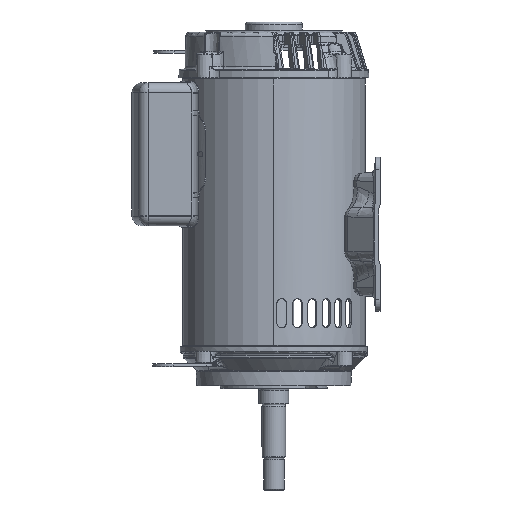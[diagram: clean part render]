
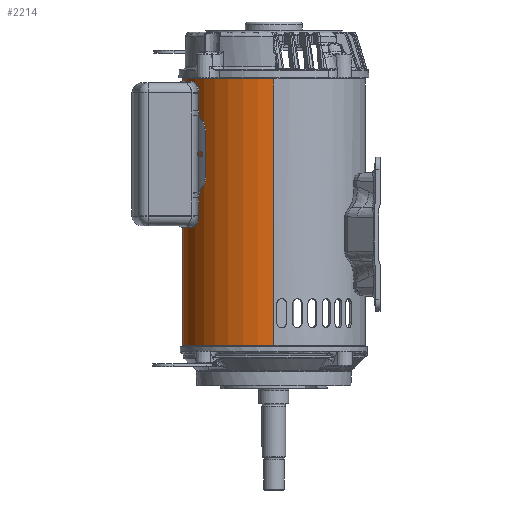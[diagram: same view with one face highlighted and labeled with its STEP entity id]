
A CAD part, left-side view. The second image highlights one B-rep face of the part: STEP entity #2214.
In plain terms, the highlighted cylindrical face has radius 97.841 mm (diameter 195.682 mm), a partial arc.
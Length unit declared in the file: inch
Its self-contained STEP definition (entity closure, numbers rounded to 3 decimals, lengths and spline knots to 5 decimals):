
#579=DIRECTION('',(0.,0.,1.));
#580=VECTOR('',#579,8.82102);
#581=CARTESIAN_POINT('',(-3.852,0.,-3.2125));
#582=LINE('',#581,#580);
#603=DIRECTION('',(0.,0.,1.));
#604=VECTOR('',#603,0.89602);
#605=CARTESIAN_POINT('',(-3.852,0.,-5.60852));
#606=LINE('',#605,#604);
#1102=CARTESIAN_POINT('',(-3.7822,0.73,-3.3415));
#1103=CARTESIAN_POINT('',(-3.77966,0.74312,-3.3415));
#1104=CARTESIAN_POINT('',(-3.77478,0.76769,
-3.33707));
#1105=CARTESIAN_POINT('',(-3.76771,0.8016,
-3.31773));
#1106=CARTESIAN_POINT('',(-3.76232,0.82643,
-3.28789));
#1107=CARTESIAN_POINT('',(-3.75942,0.83947,
-3.25201));
#1108=CARTESIAN_POINT('',(-3.75939,0.8396,
-3.21357));
#1109=CARTESIAN_POINT('',(-3.76228,0.8266,
-3.17746));
#1110=CARTESIAN_POINT('',(-3.76758,0.80221,
-3.14779));
#1111=CARTESIAN_POINT('',(-3.77473,0.76795,
-3.12796));
#1112=CARTESIAN_POINT('',(-3.77964,0.74323,-3.1235));
#1113=CARTESIAN_POINT('',(-3.7822,0.73,-3.1235));
#1115=CARTESIAN_POINT('',(-3.7822,0.73,-3.1235));
#1116=CARTESIAN_POINT('',(-3.78472,0.71691,-3.1235));
#1117=CARTESIAN_POINT('',(-3.78932,0.69237,
-3.12792));
#1118=CARTESIAN_POINT('',(-3.79533,0.65856,
-3.14715));
#1119=CARTESIAN_POINT('',(-3.79954,0.63366,
-3.17694));
#1120=CARTESIAN_POINT('',(-3.80169,0.62053,
-3.21291));
#1121=CARTESIAN_POINT('',(-3.80171,0.6204,
-3.25152));
#1122=CARTESIAN_POINT('',(-3.79956,0.6335,
-3.28774));
#1123=CARTESIAN_POINT('',(-3.79543,0.65796,
-3.31735));
#1124=CARTESIAN_POINT('',(-3.78936,0.69215,
-3.33707));
#1125=CARTESIAN_POINT('',(-3.78474,0.71682,-3.3415));
#1126=CARTESIAN_POINT('',(-3.7822,0.73,-3.3415));
#1128=CARTESIAN_POINT('',(0.,0.,-3.2125));
#1129=DIRECTION('',(0.,0.,1.));
#1130=DIRECTION('',(-0.997,0.075,0.));
#1131=AXIS2_PLACEMENT_3D('',#1128,#1129,#1130);
#1133=CARTESIAN_POINT('',(-3.83012,0.41,-3.3325));
#1134=CARTESIAN_POINT('',(-3.83012,0.41,-3.32339));
#1135=CARTESIAN_POINT('',(-3.83033,0.40798,
-3.30566));
#1136=CARTESIAN_POINT('',(-3.83128,0.39903,
-3.27996));
#1137=CARTESIAN_POINT('',(-3.83277,0.38456,
-3.25698));
#1138=CARTESIAN_POINT('',(-3.83465,0.36538,
-3.23784));
#1139=CARTESIAN_POINT('',(-3.83677,0.34249,
-3.22346));
#1140=CARTESIAN_POINT('',(-3.83897,0.31691,
-3.21454));
#1141=CARTESIAN_POINT('',(-3.84038,0.29915,-3.2125));
#1142=CARTESIAN_POINT('',(-3.84107,0.29,-3.2125));
#1144=DIRECTION('',(0.,0.,1.));
#1145=VECTOR('',#1144,1.26);
#1146=CARTESIAN_POINT('',(-3.83012,0.41,-4.5925));
#1147=LINE('',#1146,#1145);
#1148=CARTESIAN_POINT('',(-3.84107,0.29,-4.7125));
#1149=CARTESIAN_POINT('',(-3.84038,0.2991,-4.7125));
#1150=CARTESIAN_POINT('',(-3.83898,0.31681,
-4.71049));
#1151=CARTESIAN_POINT('',(-3.83677,0.34246,
-4.70156));
#1152=CARTESIAN_POINT('',(-3.83465,0.36542,
-4.68713));
#1153=CARTESIAN_POINT('',(-3.83277,0.38458,
-4.66798));
#1154=CARTESIAN_POINT('',(-3.83129,0.399,
-4.64507));
#1155=CARTESIAN_POINT('',(-3.83034,0.40796,
-4.61945));
#1156=CARTESIAN_POINT('',(-3.83012,0.41,-4.60166));
#1157=CARTESIAN_POINT('',(-3.83012,0.41,-4.5925));
#1159=CARTESIAN_POINT('',(0.,0.,-4.7125));
#1160=DIRECTION('',(0.,0.,1.));
#1161=DIRECTION('',(-0.997,0.075,0.));
#1162=AXIS2_PLACEMENT_3D('',#1159,#1160,#1161);
#1164=CARTESIAN_POINT('',(0.,0.,-5.60852));
#1165=DIRECTION('',(0.,0.,1.));
#1166=DIRECTION('',(0.,1.,0.));
#1167=AXIS2_PLACEMENT_3D('',#1164,#1165,#1166);
#1169=CARTESIAN_POINT('',(0.,0.,-5.60852));
#1170=DIRECTION('',(0.,0.,1.));
#1171=DIRECTION('',(1.,0.,0.));
#1172=AXIS2_PLACEMENT_3D('',#1169,#1170,#1171);
#1174=DIRECTION('',(0.,0.,1.));
#1175=VECTOR('',#1174,11.21703);
#1176=CARTESIAN_POINT('',(3.852,0.,-5.60852));
#1177=LINE('',#1176,#1175);
#1178=CARTESIAN_POINT('',(0.,0.,5.60852));
#1179=DIRECTION('',(0.,0.,1.));
#1180=DIRECTION('',(1.,0.,0.));
#1181=AXIS2_PLACEMENT_3D('',#1178,#1179,#1180);
#1183=CARTESIAN_POINT('',(0.,0.,5.60852));
#1184=DIRECTION('',(0.,0.,1.));
#1185=DIRECTION('',(0.,1.,0.));
#1186=AXIS2_PLACEMENT_3D('',#1183,#1184,#1185);
#1614=CARTESIAN_POINT('',(3.852,0.,-5.60852));
#1615=CARTESIAN_POINT('',(3.852,0.,5.60852));
#1616=VERTEX_POINT('',#1614);
#1617=VERTEX_POINT('',#1615);
#1634=CARTESIAN_POINT('',(0.,3.852,-5.60852));
#1635=VERTEX_POINT('',#1634);
#1636=CARTESIAN_POINT('',(-3.852,0.,-5.60852));
#1637=VERTEX_POINT('',#1636);
#1638=CARTESIAN_POINT('',(0.,3.852,5.60852));
#1639=VERTEX_POINT('',#1638);
#1640=CARTESIAN_POINT('',(-3.852,0.,5.60852));
#1641=VERTEX_POINT('',#1640);
#1646=VERTEX_POINT('',#1102);
#1647=VERTEX_POINT('',#1113);
#1648=CARTESIAN_POINT('',(-3.84107,0.29,-3.2125));
#1649=CARTESIAN_POINT('',(-3.852,0.,-3.2125));
#1650=VERTEX_POINT('',#1648);
#1651=VERTEX_POINT('',#1649);
#1652=CARTESIAN_POINT('',(-3.84107,0.29,-4.7125));
#1653=CARTESIAN_POINT('',(-3.852,0.,-4.7125));
#1654=VERTEX_POINT('',#1652);
#1655=VERTEX_POINT('',#1653);
#1656=VERTEX_POINT('',#1157);
#1657=CARTESIAN_POINT('',(-3.83012,0.41,-3.3325));
#1658=VERTEX_POINT('',#1657);
#2181=CARTESIAN_POINT('',(0.,0.,-5.8125));
#2182=DIRECTION('',(0.,0.,1.));
#2183=DIRECTION('',(1.,0.,0.));
#2184=AXIS2_PLACEMENT_3D('',#2181,#2182,#2183);
#2185=CYLINDRICAL_SURFACE('',#2184,3.852);
#2186=ORIENTED_EDGE('',*,*,#2168,.F.);
#2188=ORIENTED_EDGE('',*,*,#2187,.F.);
#2190=ORIENTED_EDGE('',*,*,#2189,.F.);
#2192=ORIENTED_EDGE('',*,*,#2191,.F.);
#2194=ORIENTED_EDGE('',*,*,#2193,.T.);
#2195=ORIENTED_EDGE('',*,*,#2013,.F.);
#2197=ORIENTED_EDGE('',*,*,#2196,.F.);
#2199=ORIENTED_EDGE('',*,*,#2198,.F.);
#2200=ORIENTED_EDGE('',*,*,#2007,.T.);
#2202=ORIENTED_EDGE('',*,*,#2201,.T.);
#2204=ORIENTED_EDGE('',*,*,#2203,.T.);
#2205=ORIENTED_EDGE('',*,*,#2001,.F.);
#2206=EDGE_LOOP('',(#2186,#2188,#2190,#2192,#2194,#2195,#2197,#2199,#2200,#2202,
#2204,#2205));
#2207=FACE_OUTER_BOUND('',#2206,.F.);
#2209=ORIENTED_EDGE('',*,*,#2208,.F.);
#2211=ORIENTED_EDGE('',*,*,#2210,.F.);
#2212=EDGE_LOOP('',(#2209,#2211));
#2213=FACE_BOUND('',#2212,.F.);
#2214=ADVANCED_FACE('',(#2207,#2213),#2185,.T.);
#1114=B_SPLINE_CURVE_WITH_KNOTS('',3,(#1102,#1103,#1104,#1105,#1106,#1107,#1108,
#1109,#1110,#1111,#1112,#1113),.UNSPECIFIED.,.F.,.F.,(4,1,1,1,1,1,1,1,1,4),
(0.,0.11111,0.22222,0.33333,0.44444,
0.55556,0.66667,0.77778,0.88889,1.),
.UNSPECIFIED.);
#1127=B_SPLINE_CURVE_WITH_KNOTS('',3,(#1115,#1116,#1117,#1118,#1119,#1120,#1121,
#1122,#1123,#1124,#1125,#1126),.UNSPECIFIED.,.F.,.F.,(4,1,1,1,1,1,1,1,1,4),
(0.,0.11111,0.22222,0.33333,0.44444,
0.55556,0.66667,0.77778,0.88889,1.),
.UNSPECIFIED.);
#1132=CIRCLE('',#1131,3.852);
#1143=B_SPLINE_CURVE_WITH_KNOTS('',3,(#1133,#1134,#1135,#1136,#1137,#1138,#1139,
#1140,#1141,#1142),.UNSPECIFIED.,.F.,.F.,(4,1,1,1,1,1,1,4),(0.,
0.14286,0.28571,0.42857,0.57143,
0.71429,0.85714,1.),.UNSPECIFIED.);
#1158=B_SPLINE_CURVE_WITH_KNOTS('',3,(#1148,#1149,#1150,#1151,#1152,#1153,#1154,
#1155,#1156,#1157),.UNSPECIFIED.,.F.,.F.,(4,1,1,1,1,1,1,4),(0.,
0.14286,0.28571,0.42857,0.57143,
0.71429,0.85714,1.),.UNSPECIFIED.);
#1163=CIRCLE('',#1162,3.852);
#1168=CIRCLE('',#1167,3.852);
#1173=CIRCLE('',#1172,3.852);
#1182=CIRCLE('',#1181,3.852);
#1187=CIRCLE('',#1186,3.852);
#2001=EDGE_CURVE('',#1651,#1641,#582,.T.);
#2007=EDGE_CURVE('',#1616,#1617,#1177,.T.);
#2013=EDGE_CURVE('',#1637,#1655,#606,.T.);
#2168=EDGE_CURVE('',#1650,#1651,#1132,.T.);
#2187=EDGE_CURVE('',#1658,#1650,#1143,.T.);
#2189=EDGE_CURVE('',#1656,#1658,#1147,.T.);
#2191=EDGE_CURVE('',#1654,#1656,#1158,.T.);
#2193=EDGE_CURVE('',#1654,#1655,#1163,.T.);
#2196=EDGE_CURVE('',#1635,#1637,#1168,.T.);
#2198=EDGE_CURVE('',#1616,#1635,#1173,.T.);
#2201=EDGE_CURVE('',#1617,#1639,#1182,.T.);
#2203=EDGE_CURVE('',#1639,#1641,#1187,.T.);
#2208=EDGE_CURVE('',#1646,#1647,#1114,.T.);
#2210=EDGE_CURVE('',#1647,#1646,#1127,.T.);
